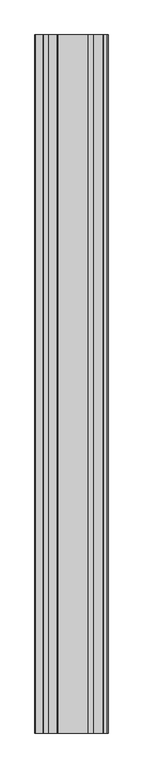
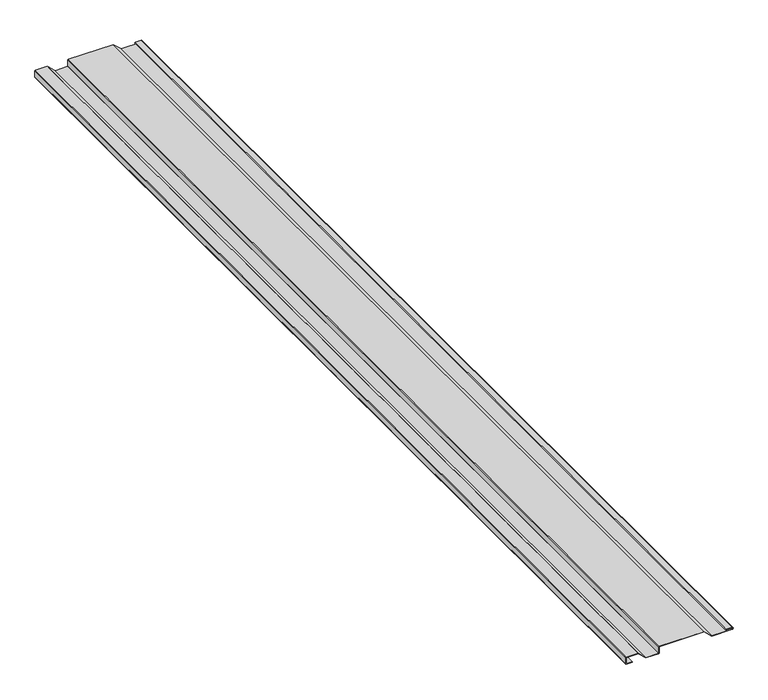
"""IFC4 building model written with IfcOpenShell, lengths in millimetres: proxy geometry, Perception-Collection_Panel_PC-20_AEP_Span : Perception Collection PC20-12c - 20ga."""

import ifcopenshell
import ifcopenshell.guid

model = None  # the IFC model being written
_history = None  # IfcOwnerHistory: only IFC2X3 demands one
_inside = {}  # id of a spatial element -> (the spatial element, [elements in it])
_under = {}  # id of a project, library or spatial element -> (it, [spatial elements below it])
_declared = {}  # id of a project -> (the project, [libraries it declares])
_typed = {}  # id of a type object -> (the type object, [elements of that type])
_made_of = {}  # id of a material, layer set ... -> (it, [elements and type objects made of it])


def new_model(schema):
    """Start an empty IFC model of exactly this schema.

    Asked for "IFC4X3", IfcOpenShell would pick the latest addendum, in which some entities
    have other attributes; the version numbers below select the first issue.
    IFC2X3 requires an IfcOwnerHistory on every rooted entity: one is made here for all.
    """
    global model, _history
    if schema == "IFC4X3":
        model = ifcopenshell.file(schema_version=(4, 3, 0, 0))
    else:
        model = ifcopenshell.file(schema=schema)
    _inside.clear()
    _under.clear()
    _declared.clear()
    _typed.clear()
    _made_of.clear()
    _history = None
    if model.schema == "IFC2X3":
        org = make("IfcOrganization", Name="unknown")
        user = make(
            "IfcPersonAndOrganization",
            ThePerson=make("IfcPerson", FamilyName="unknown"),
            TheOrganization=org,
        )
        app = make(
            "IfcApplication",
            ApplicationDeveloper=org,
            Version="unknown",
            ApplicationFullName="unknown",
            ApplicationIdentifier="unknown",
        )
        _history = make(
            "IfcOwnerHistory",
            OwningUser=user,
            OwningApplication=app,
            ChangeAction="ADDED",
            CreationDate=0,
        )
    return model


def make(cls, **values):
    """One entity of the class cls with the attributes given. An attribute that is None is left unset."""
    return model.create_entity(
        cls, **{name: value for name, value in values.items() if value is not None}
    )


def rooted(cls, **values):
    """An entity with a GlobalId (a new one), such as an element, a storey or a relation."""
    return make(cls, GlobalId=ifcopenshell.guid.new(), OwnerHistory=_history, **values)


def si_unit(unit_type, name, prefix=None):
    """IfcSIUnit, for example si_unit("LENGTHUNIT", "METRE", prefix="MILLI")."""
    return make("IfcSIUnit", UnitType=unit_type, Prefix=prefix, Name=name)


def assignment(units):
    """IfcUnitAssignment: the units of a project."""
    return None if units is None else make("IfcUnitAssignment", Units=units)


def point(xyz):
    """IfcCartesianPoint."""
    return None if xyz is None else make("IfcCartesianPoint", Coordinates=xyz)


def direction(xyz):
    """IfcDirection."""
    return None if xyz is None else make("IfcDirection", DirectionRatios=xyz)


def frame(location, z_axis=None, x_axis=None):
    """IfcAxis2Placement3D, a coordinate frame: its origin and axes. An axis left out is left unset."""
    return make(
        "IfcAxis2Placement3D",
        Location=point(location),
        Axis=direction(z_axis),
        RefDirection=direction(x_axis),
    )


def frame_2d(location, x_axis=None):
    """IfcAxis2Placement2D, a coordinate frame in the plane: its origin and x axis."""
    return make(
        "IfcAxis2Placement2D", Location=point(location), RefDirection=direction(x_axis)
    )


def origin():
    """The frame at (0, 0, 0) with its axes left unset."""
    return frame((0.0, 0.0, 0.0))


def place(relative_to, where):
    """IfcLocalPlacement: puts the frame where relative to a parent placement (None: the world)."""
    return make(
        "IfcLocalPlacement", PlacementRelTo=relative_to, RelativePlacement=where
    )


def context(
    kind, dimensions, precision=None, world=None, true_north=None, identifier=None
):
    """IfcGeometricRepresentationContext, for example the 3D "Model" context."""
    return make(
        "IfcGeometricRepresentationContext",
        ContextIdentifier=identifier,
        ContextType=kind,
        CoordinateSpaceDimension=dimensions,
        Precision=precision,
        WorldCoordinateSystem=world,
        TrueNorth=true_north,
    )


def project(units=None, contexts=None):
    """IfcProject with its units and contexts."""
    return rooted(
        "IfcProject",
        Name="project",
        RepresentationContexts=contexts,
        UnitsInContext=assignment(units),
    )


def spatial(cls, under=None, at=None, **own):
    """A site, building, storey or space (cls), placed at a placement, below another one or the project."""
    s = rooted(cls, ObjectPlacement=at, **own)
    if under is not None:
        _under.setdefault(under.id(), (under, []))[1].append(s)
    return s


def polyline(points):
    """IfcPolyline through the points."""
    return make("IfcPolyline", Points=[point(p) for p in points])


def circle_curve(where, radius):
    """IfcCircle in the frame where."""
    return make("IfcCircle", Position=where, Radius=radius)


def trimmed(basis, trim1, trim2, sense, master):
    """IfcTrimmedCurve: the piece of a basis curve between two trims."""
    return make(
        "IfcTrimmedCurve",
        BasisCurve=basis,
        Trim1=trim1,
        Trim2=trim2,
        SenseAgreement=sense,
        MasterRepresentation=master,
    )


def segment(curve, same_sense, transition):
    """IfcCompositeCurveSegment."""
    return make(
        "IfcCompositeCurveSegment",
        Transition=transition,
        SameSense=same_sense,
        ParentCurve=curve,
    )


def composite_curve(segments, self_intersect=None):
    """IfcCompositeCurve: segments joined end to end."""
    return make("IfcCompositeCurve", Segments=segments, SelfIntersect=self_intersect)


def outline(outer, holes=None, kind="AREA"):
    """IfcArbitraryClosedProfileDef: a profile drawn as a closed curve; with holes, ...WithVoids."""
    if holes is None:
        return make("IfcArbitraryClosedProfileDef", ProfileType=kind, OuterCurve=outer)
    return make(
        "IfcArbitraryProfileDefWithVoids",
        ProfileType=kind,
        OuterCurve=outer,
        InnerCurves=holes,
    )


def extrude(swept, where, along, depth):
    """IfcExtrudedAreaSolid: the profile swept, set in the frame where, extruded along a direction by depth."""
    return make(
        "IfcExtrudedAreaSolid",
        SweptArea=swept,
        Position=where,
        ExtrudedDirection=direction(along),
        Depth=depth,
    )


def shape(context_of_items, identifier, shape_type, items):
    """IfcShapeRepresentation: the items that make up one representation, for example the "Body"."""
    return make(
        "IfcShapeRepresentation",
        ContextOfItems=context_of_items,
        RepresentationIdentifier=identifier,
        RepresentationType=shape_type,
        Items=items,
    )


def source(mapping_origin, context_of_items, identifier, shape_type, items):
    """IfcRepresentationMap: a shape defined once, which mapped items show again and again."""
    return make(
        "IfcRepresentationMap",
        MappingOrigin=mapping_origin,
        MappedRepresentation=shape(context_of_items, identifier, shape_type, items),
    )


def transform(
    local_origin,
    x_axis=None,
    y_axis=None,
    z_axis=None,
    scale=None,
    scale2=None,
    scale3=None,
    uniform=True,
):
    """IfcCartesianTransformationOperator3D, or its non-uniform kind. x_axis, y_axis, z_axis: its Axis1, 2, 3."""
    if uniform:
        return make(
            "IfcCartesianTransformationOperator3D",
            Axis1=direction(x_axis),
            Axis2=direction(y_axis),
            LocalOrigin=point(local_origin),
            Scale=scale,
            Axis3=direction(z_axis),
        )
    return make(
        "IfcCartesianTransformationOperator3DnonUniform",
        Axis1=direction(x_axis),
        Axis2=direction(y_axis),
        LocalOrigin=point(local_origin),
        Scale=scale,
        Axis3=direction(z_axis),
        Scale2=scale2,
        Scale3=scale3,
    )


def mapped(mapping_source, mapping_target):
    """IfcMappedItem: shows the shape of a source again, moved by a transform."""
    return make(
        "IfcMappedItem", MappingSource=mapping_source, MappingTarget=mapping_target
    )


def made_of(thing, what):
    """Note that an element or type object is made of a material, layer set ...; save() writes the relation."""
    if what is not None:
        _made_of.setdefault(what.id(), (what, []))[1].append(thing)
    return thing


def element(
    cls,
    number,
    at=None,
    inside=None,
    cuts=None,
    type_object=None,
    material=None,
    context=None,
    identifier="Body",
    shape_type=None,
    held_by="IfcProductDefinitionShape",
    body=None,
    shapes=None,
    **own,
):
    """One element of the class cls, such as IfcWall. Its Tag is "e" and its number.

    at: its placement. inside: the storey or other place that contains it. cuts: it is an
    opening in that element (IfcRelVoidsElement). A single representation is given by context,
    identifier, shape_type and body (its items); several are given by shapes. held_by: the class
    of the entity that holds the representations. save() writes the other relations.
    """
    e = rooted(cls, Tag="e%d" % number, ObjectPlacement=at, **own)
    if body is not None:
        shapes = [shape(context, identifier, shape_type, body)]
    if shapes is not None:
        e.Representation = make(held_by, Representations=shapes)
    if inside is not None:
        _inside.setdefault(inside.id(), (inside, []))[1].append(e)
    if cuts is not None:
        rooted(
            "IfcRelVoidsElement", RelatingBuildingElement=cuts, RelatedOpeningElement=e
        )
    if type_object is not None:
        _typed.setdefault(type_object.id(), (type_object, []))[1].append(e)
    return made_of(e, material)


def aggregate(whole, parts):
    """IfcRelAggregates: a whole, such as a stair, and the parts it consists of."""
    return rooted("IfcRelAggregates", RelatingObject=whole, RelatedObjects=parts)


def save(model, path):
    """Write the relations noted so far, then the file.

    IfcRelAggregates (storeys below a building ...), IfcRelContainedInSpatialStructure (elements
    in a storey), IfcRelDefinesByType, IfcRelAssociatesMaterial and IfcRelDeclares: one each for
    every whole, place, type object, material and project.
    """
    for whole, parts in _under.values():
        aggregate(whole, parts)
    for where, things in _inside.values():
        rooted(
            "IfcRelContainedInSpatialStructure",
            RelatedElements=things,
            RelatingStructure=where,
        )
    for kind, things in _typed.values():
        rooted("IfcRelDefinesByType", RelatedObjects=things, RelatingType=kind)
    for what, things in _made_of.values():
        rooted("IfcRelAssociatesMaterial", RelatedObjects=things, RelatingMaterial=what)
    for by, libraries in _declared.values():
        rooted("IfcRelDeclares", RelatingContext=by, RelatedDefinitions=libraries)
    model.write(path)


def generic_models_de4f6712(model_context):
    return source(origin(), model_context, "Body", "SweptSolid", [
        extrude(outline(composite_curve([segment(trimmed(circle_curve(frame_2d((20.9575359, -129.356415)), 1.444969), [point((22.0143193, -128.3709485))], [point((22.4025049, -129.356415))], False, "CARTESIAN"), True, "CONTINUOUS"), segment(polyline([(22.4025049, -129.356415), (22.4025049, -164.2037127)]), True, "CONTINUOUS"), segment(trimmed(circle_curve(frame_2d((20.9575359, -164.2037127)), 1.444969), [point((22.4025049, -164.2037127))], [point((20.9575359, -165.6486817))], False, "CARTESIAN"), True, "CONTINUOUS"), segment(polyline([(20.9575359, -165.6486817), (2.3449585, -165.6486817)]), True, "CONTINUOUS"), segment(trimmed(circle_curve(frame_2d((2.3449585, -164.2037127)), 1.444969), [point((2.3449585, -165.6486817))], [point((0.8999894, -164.2037127))], False, "CARTESIAN"), True, "CONTINUOUS"), segment(polyline([(0.8999894, -164.2037127), (0.8999894, -147.2179541), (1.7991494, -147.2179541), (1.7991494, -164.1975214)]), True, "CONTINUOUS"), segment(trimmed(circle_curve(frame_2d((2.3511497, -164.1975214)), 0.5520003), [point((1.7991494, -164.1975214))], [point((2.3511497, -164.7495217))], True, "CARTESIAN"), True, "CONTINUOUS"), segment(polyline([(2.3511497, -164.7495217), (20.9513446, -164.7495217)]), True, "CONTINUOUS"), segment(trimmed(circle_curve(frame_2d((20.9513446, -164.1975214)), 0.5520003), [point((20.9513446, -164.7495217))], [point((21.5033449, -164.1975214))], True, "CARTESIAN"), True, "CONTINUOUS"), segment(polyline([(21.5033449, -164.1975214), (21.5033449, -129.1414151), (0.0004147, -106.0823456), (0.0004147, -68.067104)]), True, "CONTINUOUS"), segment(trimmed(circle_curve(frame_2d((1.615868, -68.067104)), 1.6154533), [point((0.0004147, -68.067104))], [point((1.615868, -66.4516507))], False, "CARTESIAN"), True, "CONTINUOUS"), segment(polyline([(1.615868, -66.4516507), (20.9509299, -66.4516507)]), True, "CONTINUOUS"), segment(trimmed(circle_curve(frame_2d((20.9509299, -65.8996504)), 0.5520003), [point((20.9509299, -66.4516507))], [point((21.5029302, -65.8996504))], True, "CARTESIAN"), True, "CONTINUOUS"), segment(polyline([(21.5029302, -65.8996504), (21.5029302, 67.4536695), (0.0, 90.512739), (0.0, 150.6321011)]), True, "CONTINUOUS"), segment(trimmed(circle_curve(frame_2d((3.1599959, 150.6321011)), 3.1599959), [point((0.0, 150.6321011))], [point((6.3199918, 150.6321011))], False, "CARTESIAN"), True, "CONTINUOUS"), segment(polyline([(6.3199918, 150.6321011), (6.3199918, 133.1966329)]), True, "CONTINUOUS"), segment(trimmed(circle_curve(frame_2d((5.0595896, 133.1966329)), 1.2604023), [point((6.3199918, 133.1966329))], [point((3.7991873, 133.1966329))], False, "CARTESIAN"), True, "CONTINUOUS"), segment(polyline([(3.7991873, 133.1966329), (3.7991873, 144.4000578), (4.6983473, 144.4000578), (4.6983473, 133.1966329)]), True, "CONTINUOUS"), segment(trimmed(circle_curve(frame_2d((5.0595896, 133.1966329)), 0.3612423), [point((4.6983473, 133.1966329))], [point((5.4208318, 133.1966329))], True, "CARTESIAN"), True, "CONTINUOUS"), segment(polyline([(5.4208318, 133.1966329), (5.4208318, 150.6321011)]), True, "CONTINUOUS"), segment(trimmed(circle_curve(frame_2d((3.1599959, 150.6321011)), 2.2608359), [point((5.4208318, 150.6321011))], [point((0.89916, 150.6321011))], True, "CARTESIAN"), True, "CONTINUOUS"), segment(polyline([(0.89916, 150.6321011), (0.89916, 90.8669275), (22.0139046, 68.2241361)]), True, "CONTINUOUS"), segment(trimmed(circle_curve(frame_2d((20.9571211, 67.2386696)), 1.444969), [point((22.0139046, 68.2241361))], [point((22.4020902, 67.2386696))], False, "CARTESIAN"), True, "CONTINUOUS"), segment(polyline([(22.4020902, 67.2386696), (22.4020902, -65.9058417)]), True, "CONTINUOUS"), segment(trimmed(circle_curve(frame_2d((20.9571211, -65.9058417)), 1.444969), [point((22.4020902, -65.9058417))], [point((20.9571211, -67.3508107))], False, "CARTESIAN"), True, "CONTINUOUS"), segment(polyline([(20.9571211, -67.3508107), (1.6220592, -67.3508107)]), True, "CONTINUOUS"), segment(trimmed(circle_curve(frame_2d((1.6220592, -68.0732952)), 0.7224845), [point((1.6220592, -67.3508107))], [point((0.8995747, -68.0732952))], True, "CARTESIAN"), True, "CONTINUOUS"), segment(polyline([(0.8995747, -68.0732952), (0.8995747, -105.7281571), (22.0143193, -128.3709485)]), True, "CONTINUOUS")], self_intersect=False)), frame((0.0, -3048.0, 0.0), z_axis=(0.0, 1.0, 0.0), x_axis=(0.0, 0.0, 1.0)), (0.0, 0.0, 1.0), 3048.0),
    ])


if __name__ == "__main__":
    model = new_model("IFC4")
    model_context = context("Model", 3, world=origin())
    ifc_project = project(units=[si_unit("LENGTHUNIT", "METRE", prefix="MILLI")], contexts=[model_context])
    site = spatial("IfcSite", under=ifc_project)
    building = spatial("IfcBuilding", under=site)
    placement = place(None, origin())
    generic_models_shape = generic_models_de4f6712(model_context)
    element("IfcBuildingElementProxy", 1, Name="Perception-Collection_Panel_PC-20_AEP_Span : Perception Collection PC20-12c - 20ga", ObjectType="Perception-Collection_Panel_PC-20_AEP_Span : Perception Collection PC20-12c - 20ga", at=placement, inside=building, context=model_context, shape_type="MappedRepresentation", body=[
        mapped(generic_models_shape, transform((0.0, 0.0, 0.0), x_axis=(1.0, 0.0, 0.0), y_axis=(0.0, 1.0, 0.0), z_axis=(0.0, 0.0, 1.0))),
    ])
    save(model, "model.ifc")
